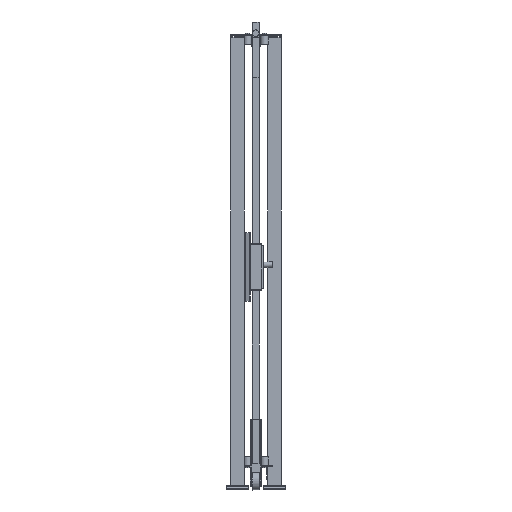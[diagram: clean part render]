
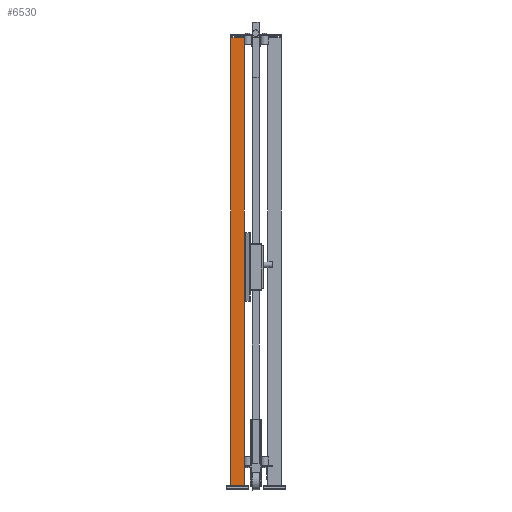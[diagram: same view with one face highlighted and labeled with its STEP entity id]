
A CAD part, left-side view. The second image highlights one B-rep face of the part: STEP entity #6530.
In plain terms, the highlighted planar face has unit normal (-1, 0, 0) as drawn and (0, 1, 0) by its records, which use the part's own axes.
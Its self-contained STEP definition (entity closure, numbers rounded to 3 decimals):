
#646=FACE_OUTER_BOUND('',#1172,.T.);
#1172=EDGE_LOOP('',(#4148,#4149,#4150,#4151));
#1776=VERTEX_POINT('',#14493);
#1777=VERTEX_POINT('',#14495);
#1779=VERTEX_POINT('',#14501);
#1782=VERTEX_POINT('',#14506);
#2666=EDGE_CURVE('',#1776,#1777,#7869,.T.);
#2672=EDGE_CURVE('',#1782,#1779,#7875,.T.);
#2675=EDGE_CURVE('',#1777,#1782,#7878,.T.);
#2676=EDGE_CURVE('',#1776,#1779,#7879,.T.);
#4148=ORIENTED_EDGE('',*,*,#2676,.T.);
#4149=ORIENTED_EDGE('',*,*,#2672,.F.);
#4150=ORIENTED_EDGE('',*,*,#2675,.F.);
#4151=ORIENTED_EDGE('',*,*,#2666,.F.);
#6074=PLANE('',#9997);
#6530=ADVANCED_FACE('',(#646),#6074,.F.);
#7869=LINE('',#14496,#9068);
#7875=LINE('',#14508,#9074);
#7878=LINE('',#14513,#9077);
#7879=LINE('',#14515,#9078);
#9068=VECTOR('',#11330,1.);
#9074=VECTOR('',#11338,1.);
#9077=VECTOR('',#11345,1.);
#9078=VECTOR('',#11348,1.);
#9997=AXIS2_PLACEMENT_3D('',#14514,#11346,#11347);
#11330=DIRECTION('',(-1.,0.,0.));
#11338=DIRECTION('',(1.,0.,0.));
#11345=DIRECTION('',(0.,0.,-1.));
#11346=DIRECTION('center_axis',(0.,-1.,0.));
#11347=DIRECTION('ref_axis',(0.,0.,-1.));
#11348=DIRECTION('',(0.,0.,-1.));
#14493=CARTESIAN_POINT('',(30.,30.,2020.));
#14495=CARTESIAN_POINT('',(-30.,30.,2020.));
#14496=CARTESIAN_POINT('',(0.,30.,2020.));
#14501=CARTESIAN_POINT('',(30.,30.,20.));
#14506=CARTESIAN_POINT('',(-30.,30.,20.));
#14508=CARTESIAN_POINT('',(0.,30.,20.));
#14513=CARTESIAN_POINT('',(-30.,30.,1020.));
#14514=CARTESIAN_POINT('Origin',(0.,30.,
1020.));
#14515=CARTESIAN_POINT('',(30.,30.,1020.));
